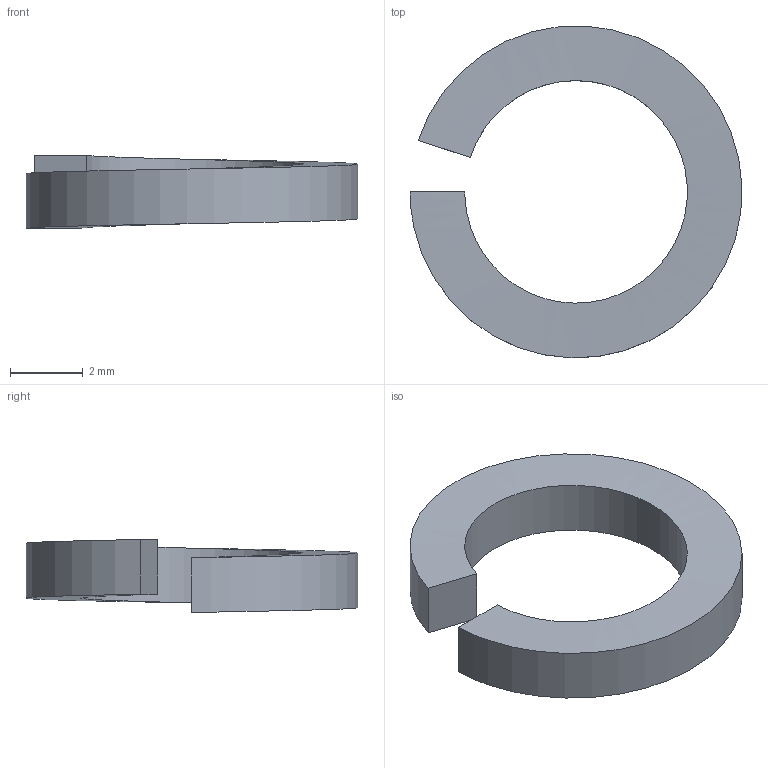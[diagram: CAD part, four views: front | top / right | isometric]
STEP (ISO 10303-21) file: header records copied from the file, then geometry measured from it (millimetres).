
FILE_DESCRIPTION ((), '1');
FILE_NAME ('F:\Energy Science\CAD Projects\Generator Research\Tesla_v1\Fittings\M6 Fittings\M6 Spring Washer\M6 Spring Washer.stp', '2015-10-19T01:08:11', ('Unknown'), ('Unknown'), 'HarmonyWare STEP v1.7.11', 'HarmonyWare Translators', '');
FILE_SCHEMA (('CONFIG_CONTROL_DESIGN'));
Length unit declared in the file: millimetre
Products named in the file (1): product-name: product-name
Bounding box: 9.1 x 9.09 x 2 mm (x, y, z)
Volume: 51 mm3; surface area: 140.6 mm2
Topology: 1 solids, 1 shells, 6 faces, 12 edges, 8 vertices
Faces by surface type: bspline 6
Entity records: 417 total; most frequent: CARTESIAN_POINT 236, ORIENTED_EDGE 24, B_SPLINE_CURVE_WITH_KNOTS 12, EDGE_CURVE 12, VERTEX_POINT 8, PERSON 8, ORGANIZATION 8, PERSON_AND_ORGANIZATION 8
